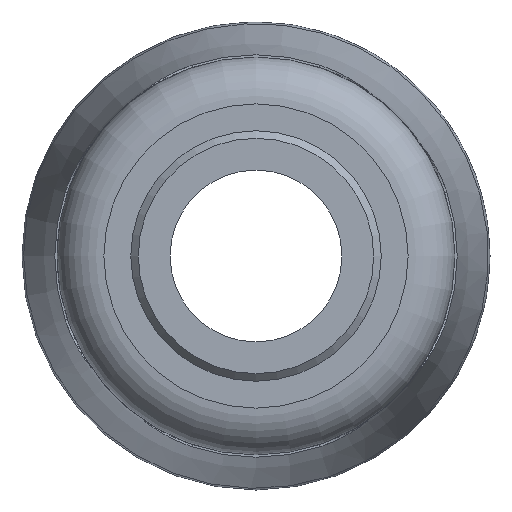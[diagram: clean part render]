
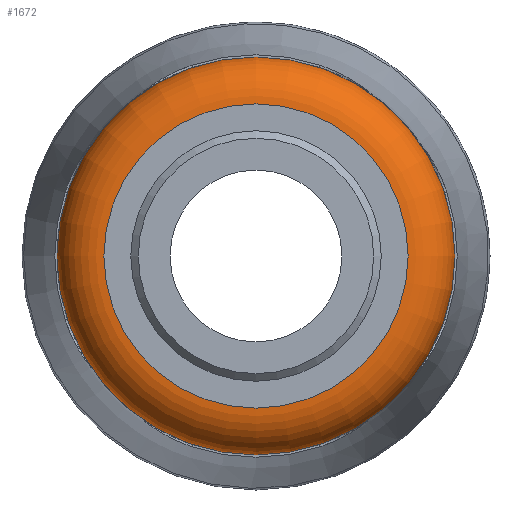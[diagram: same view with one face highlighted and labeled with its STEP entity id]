
A CAD part, left-side view. The second image highlights one B-rep face of the part: STEP entity #1672.
In plain terms, the highlighted toroidal (fillet/blend) face has major radius 27.625 mm and minor radius 8.5 mm.
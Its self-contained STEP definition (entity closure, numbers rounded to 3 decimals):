
#16=TOROIDAL_SURFACE('',#1828,27.625,8.5);
#353=FACE_BOUND('',#498,.T.);
#388=FACE_OUTER_BOUND('',#497,.T.);
#497=EDGE_LOOP('',(#1219));
#498=EDGE_LOOP('',(#1220));
#613=CIRCLE('',#1807,36.125);
#626=CIRCLE('',#1829,27.625);
#725=VERTEX_POINT('',#2836);
#735=VERTEX_POINT('',#2891);
#896=EDGE_CURVE('',#725,#725,#613,.T.);
#912=EDGE_CURVE('',#735,#735,#626,.T.);
#1219=ORIENTED_EDGE('',*,*,#912,.T.);
#1220=ORIENTED_EDGE('',*,*,#896,.T.);
#1672=ADVANCED_FACE('',(#388,#353),#16,.T.);
#1807=AXIS2_PLACEMENT_3D('',#2837,#2076,#2077);
#1828=AXIS2_PLACEMENT_3D('',#2890,#2119,#2120);
#1829=AXIS2_PLACEMENT_3D('',#2892,#2121,#2122);
#2076=DIRECTION('center_axis',(-1.,0.,0.));
#2077=DIRECTION('ref_axis',(0.,-1.,0.));
#2119=DIRECTION('center_axis',(1.,0.,0.));
#2120=DIRECTION('ref_axis',(0.,0.,-1.));
#2121=DIRECTION('center_axis',(1.,0.,0.));
#2122=DIRECTION('ref_axis',(0.,-1.,0.));
#2836=CARTESIAN_POINT('',(27.5,36.125,0.));
#2837=CARTESIAN_POINT('Origin',(27.5,0.,0.));
#2890=CARTESIAN_POINT('Origin',(27.5,0.,0.));
#2891=CARTESIAN_POINT('',(19.,27.625,0.));
#2892=CARTESIAN_POINT('Origin',(19.,0.,0.));
